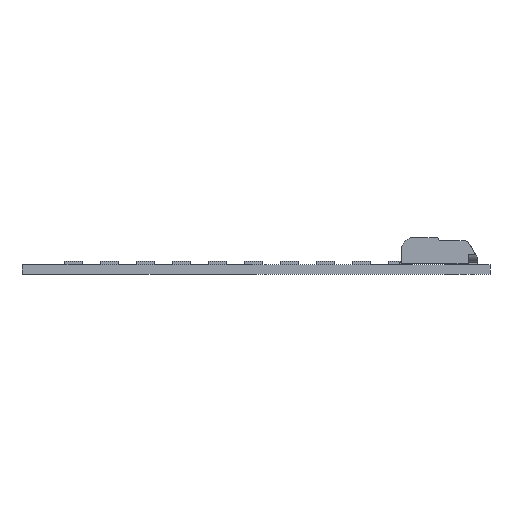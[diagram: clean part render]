
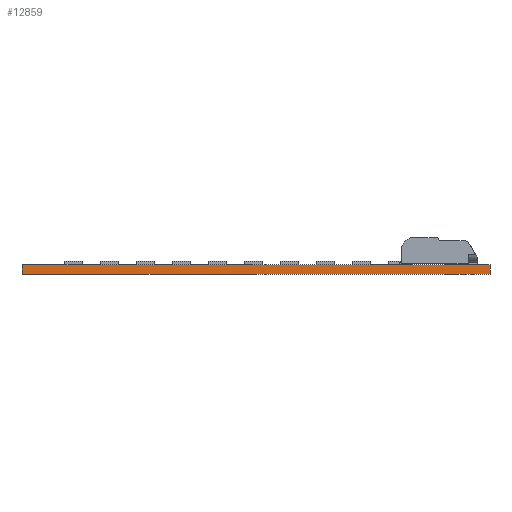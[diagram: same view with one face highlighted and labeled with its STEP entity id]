
A CAD part, left-side view. The second image highlights one B-rep face of the part: STEP entity #12859.
In plain terms, the highlighted planar face has unit normal (-1, 0, 0).
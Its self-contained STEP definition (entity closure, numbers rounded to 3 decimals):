
#1640=DIRECTION('',(0.,1.,0.));
#1641=VECTOR('',#1640,78.);
#1642=CARTESIAN_POINT('',(-39.,-42.5,1.65));
#1643=LINE('',#1642,#1641);
#2576=DIRECTION('',(0.,0.,1.));
#2577=VECTOR('',#2576,1.65);
#2578=CARTESIAN_POINT('',(-39.,35.5,0.));
#2579=LINE('',#2578,#2577);
#2590=DIRECTION('',(0.,0.,1.));
#2591=VECTOR('',#2590,1.65);
#2592=CARTESIAN_POINT('',(-39.,-42.5,0.));
#2593=LINE('',#2592,#2591);
#2604=DIRECTION('',(0.,-1.,0.));
#2605=VECTOR('',#2604,78.);
#2606=CARTESIAN_POINT('',(-39.,35.5,0.));
#2607=LINE('',#2606,#2605);
#9438=CARTESIAN_POINT('',(-39.,35.5,1.65));
#9440=VERTEX_POINT('',#9438);
#9444=CARTESIAN_POINT('',(-39.,-42.5,1.65));
#9445=VERTEX_POINT('',#9444);
#9938=CARTESIAN_POINT('',(-39.,35.5,0.));
#9939=VERTEX_POINT('',#9938);
#9942=CARTESIAN_POINT('',(-39.,-42.5,0.));
#9943=VERTEX_POINT('',#9942);
#12846=CARTESIAN_POINT('',(-39.,35.5,1.65));
#12847=DIRECTION('',(-1.,0.,0.));
#12848=DIRECTION('',(0.,0.,1.));
#12849=AXIS2_PLACEMENT_3D('',#12846,#12847,#12848);
#12850=PLANE('',#12849);
#12852=ORIENTED_EDGE('',*,*,#12851,.F.);
#12854=ORIENTED_EDGE('',*,*,#12853,.F.);
#12855=ORIENTED_EDGE('',*,*,#12829,.T.);
#12856=ORIENTED_EDGE('',*,*,#12187,.F.);
#12857=EDGE_LOOP('',(#12852,#12854,#12855,#12856));
#12858=FACE_OUTER_BOUND('',#12857,.F.);
#12187=EDGE_CURVE('',#9445,#9440,#1643,.T.);
#12829=EDGE_CURVE('',#9939,#9440,#2579,.T.);
#12851=EDGE_CURVE('',#9943,#9445,#2593,.T.);
#12853=EDGE_CURVE('',#9939,#9943,#2607,.T.);
#12859=ADVANCED_FACE('',(#12858),#12850,.T.);
